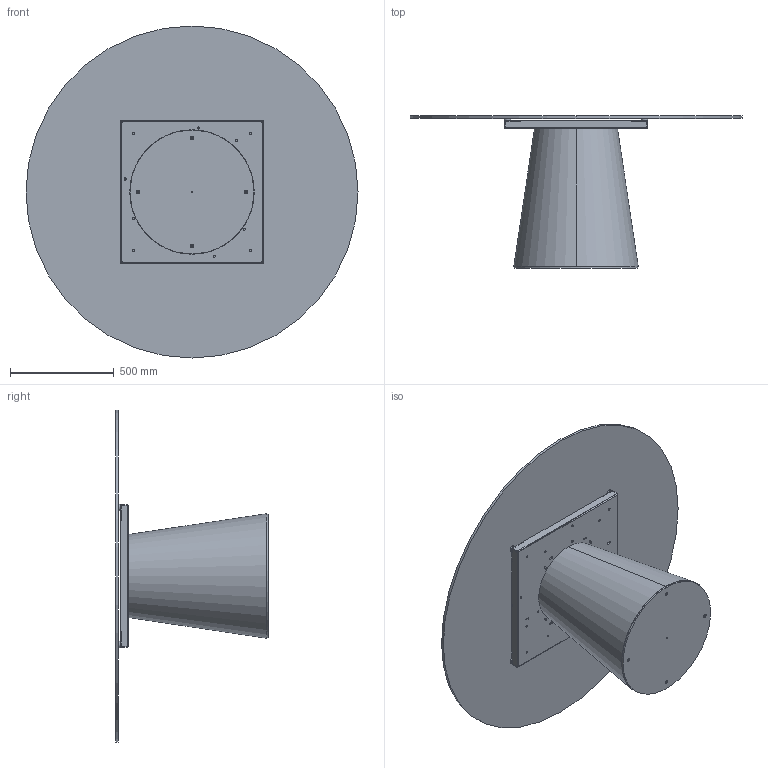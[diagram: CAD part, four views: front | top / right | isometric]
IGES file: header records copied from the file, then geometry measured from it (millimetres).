
Start section: SolidWorks IGES file using analytic representation for surfaces
Global section: file name: Y:\eforma\TECNICO\SOLIDWORKS\E-FORMA\1-TAVOLI\TEO\08 modelli 3D web\TO08G_Teo_d.160_Glass.IGS; native system: SolidWorks 2022; preprocessor: SolidWorks 2022; author: eforma.tech; date: 240802.112500; units: millimetre
Bounding box: 1600 x 735.19 x 1600 mm (x, y, z)
Volume: 54392437.5 mm3; surface area: 8508272 mm2
Topology: 20 solids, 20 shells, 648 faces, 1650 edges, 1040 vertices
Faces by surface type: revolution 326, plane 322
